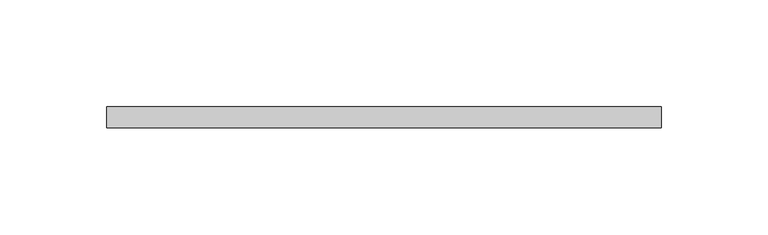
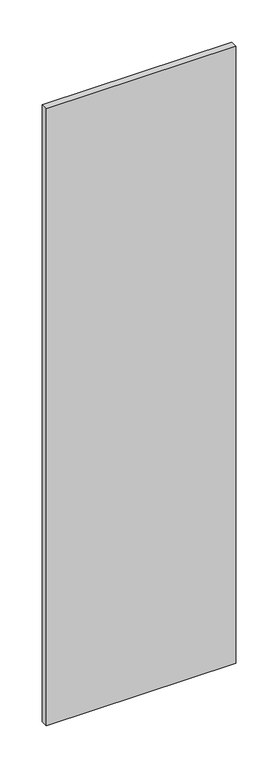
"""IFC4 building model written with IfcOpenShell, lengths in millimetres: plate geometry, システム パネル : 標準."""

from ifc_helpers import new_model, si_unit, origin, origin_with_axes, place, context, project, spatial, polyline, outline, extrude, source, transform, mapped, element, save


def plate_ba683b9a(model_context):
    return source(origin(), model_context, "Body", "SweptSolid", [
        extrude(outline(polyline([(130.0, -5.0), (-130.0, -5.0), (-130.0, 5.0), (130.0, 5.0), (130.0, -5.0)])), origin_with_axes(), (0.0, 0.0, 1.0), 895.0),
    ])


if __name__ == "__main__":
    model = new_model("IFC4")
    model_context = context("Model", 3, world=origin())
    ifc_project = project(units=[si_unit("LENGTHUNIT", "METRE", prefix="MILLI")], contexts=[model_context])
    site = spatial("IfcSite", under=ifc_project)
    building = spatial("IfcBuilding", under=site)
    placement = place(None, origin())
    plate_shape = plate_ba683b9a(model_context)
    element("IfcPlate", 1, ObjectType="システム パネル : 標準", at=placement, inside=building, context=model_context, shape_type="MappedRepresentation", body=[
        mapped(plate_shape, transform((0.0, 0.0, 0.0), x_axis=(1.0, 0.0, 0.0), y_axis=(0.0, 1.0, 0.0), z_axis=(0.0, 0.0, 1.0))),
    ])
    save(model, "model.ifc")
